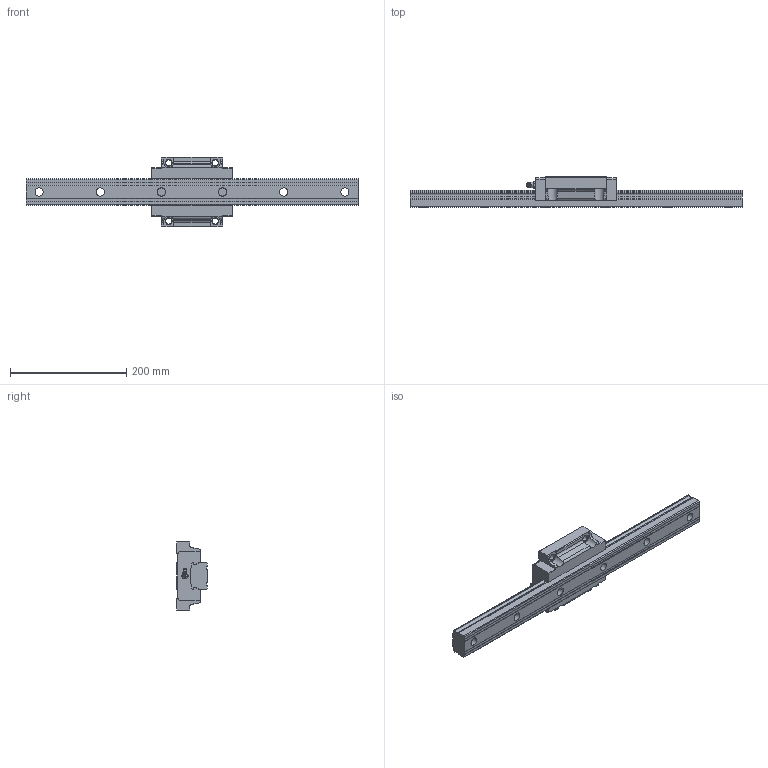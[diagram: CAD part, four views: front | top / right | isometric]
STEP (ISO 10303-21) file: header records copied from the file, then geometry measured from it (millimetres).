
FILE_DESCRIPTION(/* description */ ('STEP AP203'),/* implementation_level */ '2;1');
FILE_NAME(/* name */ 'SVR45C1SS-570L_G22-5_0_B-PT18_215-9_0_0_0_1',/* time_stamp */ '2024-05-17T07:23:00+02:00',/* author */ ('License CC BY-ND 4.0'),/* organization */ ('CADENAS'),/* preprocessor_version */ 'ST-DEVELOPER v19.3',/* originating_system */ 'PARTsolutions',/* authorisation */ ' ');
FILE_SCHEMA (('CONFIG_CONTROL_DESIGN'));
Length unit declared in the file: millimetre
Products named in the file (4): SVR45C1SS-570L_G22-5_0_B-PT18_215-9_0_0_0_1; SVR 45C57022.5 R Track; SVR 45C1SSB-PT1/81 Slide; B-PT1/8_grease_nipple_joint1_SVR
Assembly tree (3 placements, depth 2):
  SVR45C1SS-570L_G22-5_0_B-PT18_215-9_0_0_0_1
    SVR 45C57022.5 R Track
    SVR 45C1SSB-PT1/81 Slide
    B-PT1/8_grease_nipple_joint1_SVR
Bounding box: 570 x 52 x 120 mm (x, y, z)
Volume: 1104703.6 mm3; surface area: 153241.1 mm2
Topology: 3 solids, 3 shells, 225 faces, 608 edges, 399 vertices
Faces by surface type: plane 125, cylinder 75, cone 20, torus 3, sphere 2
Full cylindrical faces by diameter (mm): 5.2 x2, 9.6 x1, 10.5 x4, 14 x6, 20 x6
Entity records: 7030 total; most frequent: CARTESIAN_POINT 1376, DIRECTION 1148, ORIENTED_EDGE 1110, EDGE_CURVE 555, AXIS2_PLACEMENT_3D 407, VERTEX_POINT 392, LINE 334, VECTOR 334
